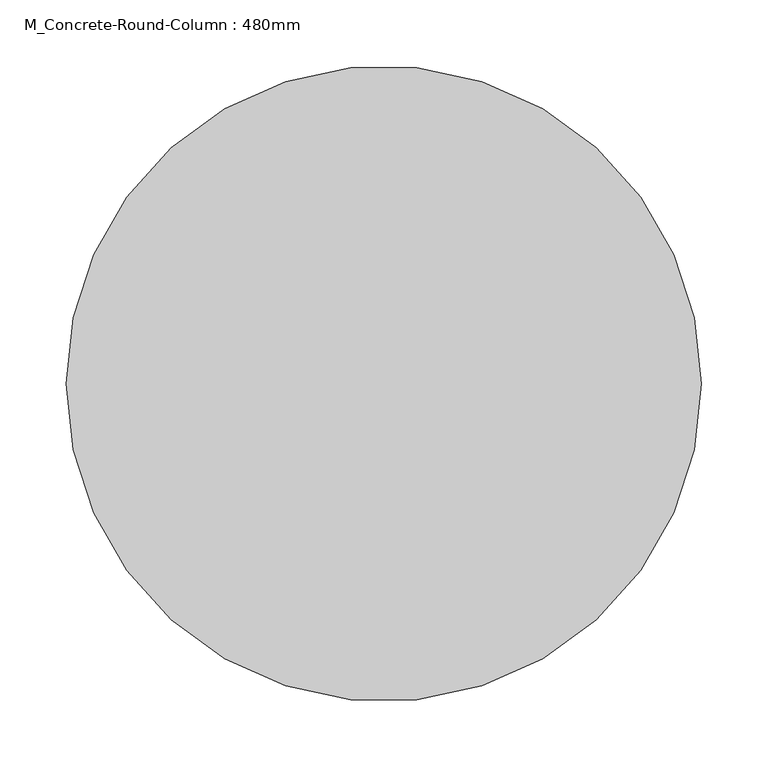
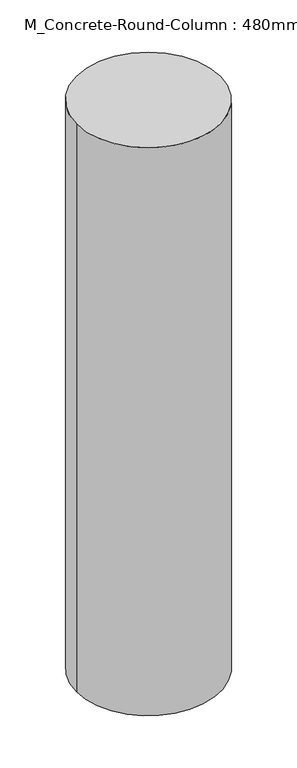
"""IFC4 building model written with IfcOpenShell, lengths in millimetres: column geometry, M_Concrete-Round-Column : 480mm."""

from ifc_helpers import new_model, si_unit, point, frame, origin, origin_2d, place, context, project, spatial, circle_curve, trimmed, segment, composite_curve, outline, extrude, source, transform, mapped, element, save


def m_concrete_round_column_480mm_4b872f0a(model_context):
    return source(origin(), model_context, "Body", "SweptSolid", [
        extrude(outline(composite_curve([segment(trimmed(circle_curve(origin_2d(), 240.0), [point((-240.0, 0.0))], [point((240.0, 0.0))], False, "CARTESIAN"), True, "CONTINUOUS"), segment(trimmed(circle_curve(origin_2d(), 240.0), [point((240.0, 0.0))], [point((-240.0, 0.0))], False, "CARTESIAN"), True, "CONTINUOUS")], self_intersect=False)), frame((0.0, 0.0, -2000.0), z_axis=(0.0, 0.0, 1.0), x_axis=(1.0, 0.0, 0.0)), (0.0, 0.0, 1.0), 2000.0),
    ])


if __name__ == "__main__":
    model = new_model("IFC4")
    model_context = context("Model", 3, world=origin())
    ifc_project = project(units=[si_unit("LENGTHUNIT", "METRE", prefix="MILLI")], contexts=[model_context])
    site = spatial("IfcSite", under=ifc_project)
    building = spatial("IfcBuilding", under=site)
    placement = place(None, origin())
    m_concrete_round_column_480mm_shape = m_concrete_round_column_480mm_4b872f0a(model_context)
    element("IfcColumn", 1, ObjectType="M_Concrete-Round-Column : 480mm", at=placement, inside=building, context=model_context, shape_type="MappedRepresentation", body=[
        mapped(m_concrete_round_column_480mm_shape, transform((0.0, 0.0, 0.0), x_axis=(1.0, 0.0, 0.0), y_axis=(0.0, 1.0, 0.0), z_axis=(0.0, 0.0, 1.0))),
    ])
    save(model, "model.ifc")
